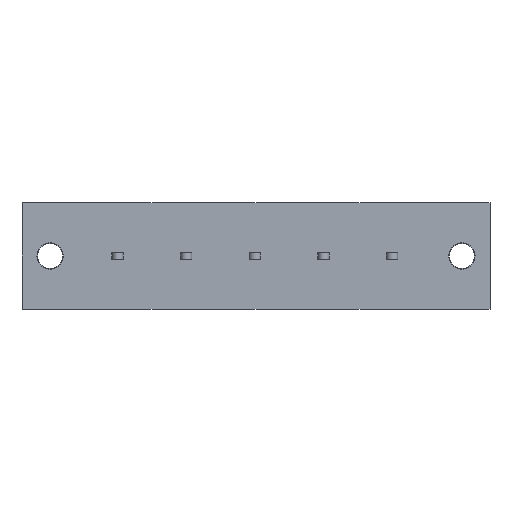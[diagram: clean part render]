
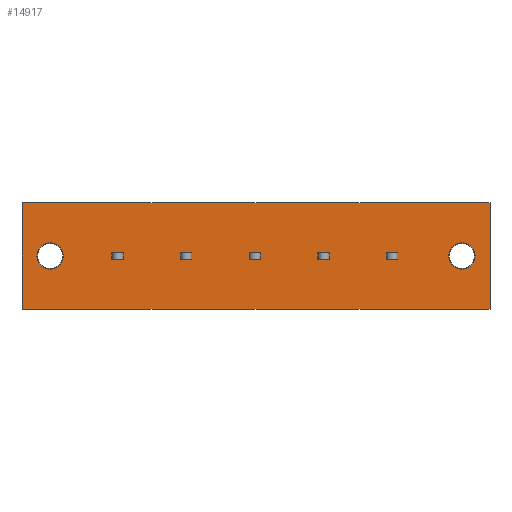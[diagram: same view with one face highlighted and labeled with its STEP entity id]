
A CAD part, front view. The second image highlights one B-rep face of the part: STEP entity #14917.
In plain terms, the highlighted planar face has unit normal (0, -1, 0).
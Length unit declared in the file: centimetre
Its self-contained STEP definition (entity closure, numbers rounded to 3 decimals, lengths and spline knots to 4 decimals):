
#954=VECTOR('',#16100,1.);
#1445=VECTOR('',#16899,1.);
#1614=VECTOR('',#17342,1.);
#1618=VECTOR('',#17347,1.);
#1629=VECTOR('',#17380,1.);
#1631=VECTOR('',#17383,1.);
#1749=VECTOR('',#17697,1.);
#1753=VECTOR('',#17702,1.);
#1764=VECTOR('',#17735,1.);
#1766=VECTOR('',#17738,1.);
#1884=VECTOR('',#18052,1.);
#1888=VECTOR('',#18057,1.);
#1899=VECTOR('',#18090,1.);
#1901=VECTOR('',#18093,1.);
#2019=VECTOR('',#18407,1.);
#2023=VECTOR('',#18412,1.);
#2034=VECTOR('',#18445,1.);
#2036=VECTOR('',#18448,1.);
#2103=VECTOR('',#18573,1.);
#2104=VECTOR('',#18574,1.);
#2105=VECTOR('',#18575,1.);
#2106=VECTOR('',#18576,1.);
#2107=VECTOR('',#18577,1.);
#2108=VECTOR('',#18578,1.);
#2566=LINE('',#20224,#954);
#3057=LINE('',#22063,#1445);
#3226=LINE('',#22618,#1614);
#3230=LINE('',#22627,#1618);
#3241=LINE('',#22662,#1629);
#3243=LINE('',#22666,#1631);
#3361=LINE('',#23067,#1749);
#3365=LINE('',#23076,#1753);
#3376=LINE('',#23111,#1764);
#3378=LINE('',#23115,#1766);
#3496=LINE('',#23516,#1884);
#3500=LINE('',#23525,#1888);
#3511=LINE('',#23560,#1899);
#3513=LINE('',#23564,#1901);
#3631=LINE('',#23965,#2019);
#3635=LINE('',#23974,#2023);
#3646=LINE('',#24009,#2034);
#3648=LINE('',#24013,#2036);
#3715=LINE('',#24175,#2103);
#3716=LINE('',#24178,#2104);
#3717=LINE('',#24180,#2105);
#3718=LINE('',#24182,#2106);
#3719=LINE('',#24183,#2107);
#3720=LINE('',#24184,#2108);
#4214=VERTEX_POINT('',#20225);
#4215=VERTEX_POINT('',#20226);
#4226=VERTEX_POINT('',#20250);
#4661=VERTEX_POINT('',#22064);
#4662=VERTEX_POINT('',#22065);
#4673=VERTEX_POINT('',#22089);
#4844=VERTEX_POINT('',#22619);
#4845=VERTEX_POINT('',#22620);
#4848=VERTEX_POINT('',#22628);
#4859=VERTEX_POINT('',#22663);
#4982=VERTEX_POINT('',#23068);
#4983=VERTEX_POINT('',#23069);
#4986=VERTEX_POINT('',#23077);
#4997=VERTEX_POINT('',#23112);
#5120=VERTEX_POINT('',#23517);
#5121=VERTEX_POINT('',#23518);
#5124=VERTEX_POINT('',#23526);
#5135=VERTEX_POINT('',#23561);
#5258=VERTEX_POINT('',#23966);
#5259=VERTEX_POINT('',#23967);
#5262=VERTEX_POINT('',#23975);
#5273=VERTEX_POINT('',#24010);
#5331=VERTEX_POINT('',#24176);
#5332=VERTEX_POINT('',#24177);
#5333=VERTEX_POINT('',#24179);
#5334=VERTEX_POINT('',#24181);
#5354=CIRCLE('',#24426,0.21);
#5397=CIRCLE('',#24663,0.21);
#6176=EDGE_CURVE('',#4214,#4215,#2566,.T.);
#6188=EDGE_CURVE('',#4226,#4226,#5354,.T.);
#6831=EDGE_CURVE('',#4661,#4662,#3057,.T.);
#6843=EDGE_CURVE('',#4673,#4673,#5397,.T.);
#7092=EDGE_CURVE('',#4844,#4845,#3226,.T.);
#7096=EDGE_CURVE('',#4848,#4844,#3230,.T.);
#7113=EDGE_CURVE('',#4859,#4848,#3241,.T.);
#7115=EDGE_CURVE('',#4845,#4859,#3243,.T.);
#7298=EDGE_CURVE('',#4982,#4983,#3361,.T.);
#7302=EDGE_CURVE('',#4986,#4982,#3365,.T.);
#7319=EDGE_CURVE('',#4997,#4986,#3376,.T.);
#7321=EDGE_CURVE('',#4983,#4997,#3378,.T.);
#7504=EDGE_CURVE('',#5120,#5121,#3496,.T.);
#7508=EDGE_CURVE('',#5124,#5120,#3500,.T.);
#7525=EDGE_CURVE('',#5135,#5124,#3511,.T.);
#7527=EDGE_CURVE('',#5121,#5135,#3513,.T.);
#7710=EDGE_CURVE('',#5258,#5259,#3631,.T.);
#7714=EDGE_CURVE('',#5262,#5258,#3635,.T.);
#7731=EDGE_CURVE('',#5273,#5262,#3646,.T.);
#7733=EDGE_CURVE('',#5259,#5273,#3648,.T.);
#7816=EDGE_CURVE('',#5331,#5332,#3715,.T.);
#7817=EDGE_CURVE('',#5333,#5331,#3716,.T.);
#7818=EDGE_CURVE('',#5334,#5333,#3717,.T.);
#7819=EDGE_CURVE('',#5332,#5334,#3718,.T.);
#7820=EDGE_CURVE('',#4662,#4214,#3719,.T.);
#7821=EDGE_CURVE('',#4215,#4661,#3720,.T.);
#12081=ORIENTED_EDGE('',*,*,#6188,.T.);
#12082=ORIENTED_EDGE('',*,*,#6843,.T.);
#12083=ORIENTED_EDGE('',*,*,#7816,.F.);
#12084=ORIENTED_EDGE('',*,*,#7817,.F.);
#12085=ORIENTED_EDGE('',*,*,#7818,.F.);
#12086=ORIENTED_EDGE('',*,*,#7819,.F.);
#12087=ORIENTED_EDGE('',*,*,#7096,.T.);
#12088=ORIENTED_EDGE('',*,*,#7092,.T.);
#12089=ORIENTED_EDGE('',*,*,#7115,.T.);
#12090=ORIENTED_EDGE('',*,*,#7113,.T.);
#12091=ORIENTED_EDGE('',*,*,#7302,.T.);
#12092=ORIENTED_EDGE('',*,*,#7298,.T.);
#12093=ORIENTED_EDGE('',*,*,#7321,.T.);
#12094=ORIENTED_EDGE('',*,*,#7319,.T.);
#12095=ORIENTED_EDGE('',*,*,#7508,.T.);
#12096=ORIENTED_EDGE('',*,*,#7504,.T.);
#12097=ORIENTED_EDGE('',*,*,#7527,.T.);
#12098=ORIENTED_EDGE('',*,*,#7525,.T.);
#12099=ORIENTED_EDGE('',*,*,#7714,.T.);
#12100=ORIENTED_EDGE('',*,*,#7710,.T.);
#12101=ORIENTED_EDGE('',*,*,#7733,.T.);
#12102=ORIENTED_EDGE('',*,*,#7731,.T.);
#12103=ORIENTED_EDGE('',*,*,#7820,.T.);
#12104=ORIENTED_EDGE('',*,*,#6176,.T.);
#12105=ORIENTED_EDGE('',*,*,#7821,.T.);
#12106=ORIENTED_EDGE('',*,*,#6831,.T.);
#13174=EDGE_LOOP('',(#12081));
#13175=EDGE_LOOP('',(#12082));
#13176=EDGE_LOOP('',(#12083,#12084,#12085,#12086));
#13177=EDGE_LOOP('',(#12087,#12088,#12089,#12090));
#13178=EDGE_LOOP('',(#12091,#12092,#12093,#12094));
#13179=EDGE_LOOP('',(#12095,#12096,#12097,#12098));
#13180=EDGE_LOOP('',(#12099,#12100,#12101,#12102));
#13181=EDGE_LOOP('',(#12103,#12104,#12105,#12106));
#14090=FACE_BOUND('',#13174,.T.);
#14091=FACE_BOUND('',#13175,.T.);
#14092=FACE_BOUND('',#13176,.T.);
#14093=FACE_BOUND('',#13177,.T.);
#14094=FACE_BOUND('',#13178,.T.);
#14095=FACE_BOUND('',#13179,.T.);
#14096=FACE_BOUND('',#13180,.T.);
#14097=FACE_BOUND('',#13181,.T.);
#14917=ADVANCED_FACE('',(#14090,#14091,#14092,#14093,#14094,#14095,#14096,
#14097),#15483,.T.);
#15483=PLANE('',#25281);
#16100=DIRECTION('',(0.,0.,1.));
#16118=DIRECTION('',(0.,1.,0.));
#16119=DIRECTION('',(0.21,0.,0.));
#16899=DIRECTION('',(0.,0.,-1.));
#16917=DIRECTION('',(0.,1.,0.));
#16918=DIRECTION('',(-0.21,0.,0.));
#17342=DIRECTION('',(0.,0.,1.));
#17347=DIRECTION('',(-1.,0.,0.));
#17380=DIRECTION('',(0.,0.,-1.));
#17383=DIRECTION('',(1.,0.,0.));
#17697=DIRECTION('',(0.,0.,1.));
#17702=DIRECTION('',(-1.,0.,0.));
#17735=DIRECTION('',(0.,0.,-1.));
#17738=DIRECTION('',(1.,0.,0.));
#18052=DIRECTION('',(0.,0.,1.));
#18057=DIRECTION('',(-1.,0.,0.));
#18090=DIRECTION('',(0.,0.,-1.));
#18093=DIRECTION('',(1.,0.,0.));
#18407=DIRECTION('',(0.,0.,1.));
#18412=DIRECTION('',(-1.,0.,0.));
#18445=DIRECTION('',(0.,0.,-1.));
#18448=DIRECTION('',(1.,0.,0.));
#18572=DIRECTION('',(0.,-1.,0.));
#18573=DIRECTION('',(1.,0.,0.));
#18574=DIRECTION('',(0.,0.,-1.));
#18575=DIRECTION('',(-1.,0.,0.));
#18576=DIRECTION('',(0.,0.,1.));
#18577=DIRECTION('',(1.,0.,0.));
#18578=DIRECTION('',(-1.,0.,0.));
#20224=CARTESIAN_POINT('',(5.5,0.,0.85));
#20225=CARTESIAN_POINT('',(5.5,0.,-0.85));
#20226=CARTESIAN_POINT('',(5.5,0.,0.85));
#20249=CARTESIAN_POINT('',(5.05,0.,0.));
#20250=CARTESIAN_POINT('',(4.84,0.,0.));
#22063=CARTESIAN_POINT('',(-2.,0.,-0.85));
#22064=CARTESIAN_POINT('',(-2.,0.,0.85));
#22065=CARTESIAN_POINT('',(-2.,0.,-0.85));
#22088=CARTESIAN_POINT('',(-1.55,0.,0.));
#22089=CARTESIAN_POINT('',(-1.34,0.,0.));
#22618=CARTESIAN_POINT('',(3.84,0.,-0.175));
#22619=CARTESIAN_POINT('',(3.84,0.,-0.05));
#22620=CARTESIAN_POINT('',(3.84,0.,0.05));
#22627=CARTESIAN_POINT('',(1.965,0.,-0.05));
#22628=CARTESIAN_POINT('',(4.02,0.,-0.05));
#22662=CARTESIAN_POINT('',(4.02,0.,-0.175));
#22663=CARTESIAN_POINT('',(4.02,0.,0.05));
#22666=CARTESIAN_POINT('',(1.965,0.,0.05));
#23067=CARTESIAN_POINT('',(2.74,0.,-0.175));
#23068=CARTESIAN_POINT('',(2.74,0.,-0.05));
#23069=CARTESIAN_POINT('',(2.74,0.,0.05));
#23076=CARTESIAN_POINT('',(1.415,0.,-0.05));
#23077=CARTESIAN_POINT('',(2.92,0.,-0.05));
#23111=CARTESIAN_POINT('',(2.92,0.,-0.175));
#23112=CARTESIAN_POINT('',(2.92,0.,0.05));
#23115=CARTESIAN_POINT('',(1.415,0.,0.05));
#23516=CARTESIAN_POINT('',(1.64,0.,-0.175));
#23517=CARTESIAN_POINT('',(1.64,0.,-0.05));
#23518=CARTESIAN_POINT('',(1.64,0.,0.05));
#23525=CARTESIAN_POINT('',(0.865,0.,-0.05));
#23526=CARTESIAN_POINT('',(1.82,0.,-0.05));
#23560=CARTESIAN_POINT('',(1.82,0.,-0.175));
#23561=CARTESIAN_POINT('',(1.82,0.,0.05));
#23564=CARTESIAN_POINT('',(0.865,0.,0.05));
#23965=CARTESIAN_POINT('',(0.54,0.,-0.175));
#23966=CARTESIAN_POINT('',(0.54,0.,-0.05));
#23967=CARTESIAN_POINT('',(0.54,0.,0.05));
#23974=CARTESIAN_POINT('',(0.315,0.,-0.05));
#23975=CARTESIAN_POINT('',(0.72,0.,-0.05));
#24009=CARTESIAN_POINT('',(0.72,0.,-0.175));
#24010=CARTESIAN_POINT('',(0.72,0.,0.05));
#24013=CARTESIAN_POINT('',(0.315,0.,0.05));
#24174=CARTESIAN_POINT('',(0.,0.,0.));
#24175=CARTESIAN_POINT('',(-0.685,0.,-0.05));
#24176=CARTESIAN_POINT('',(-0.56,0.,-0.05));
#24177=CARTESIAN_POINT('',(-0.38,0.,-0.05));
#24178=CARTESIAN_POINT('',(-0.56,0.,-0.175));
#24179=CARTESIAN_POINT('',(-0.56,0.,0.05));
#24180=CARTESIAN_POINT('',(-0.685,0.,0.05));
#24181=CARTESIAN_POINT('',(-0.38,0.,0.05));
#24182=CARTESIAN_POINT('',(-0.38,0.,-0.175));
#24183=CARTESIAN_POINT('',(0.,0.,-0.85));
#24184=CARTESIAN_POINT('',(-1.1,0.,0.85));
#24426=AXIS2_PLACEMENT_3D('',#20249,#16118,#16119);
#24663=AXIS2_PLACEMENT_3D('',#22088,#16917,#16918);
#25281=AXIS2_PLACEMENT_3D('',#24174,#18572,$);
